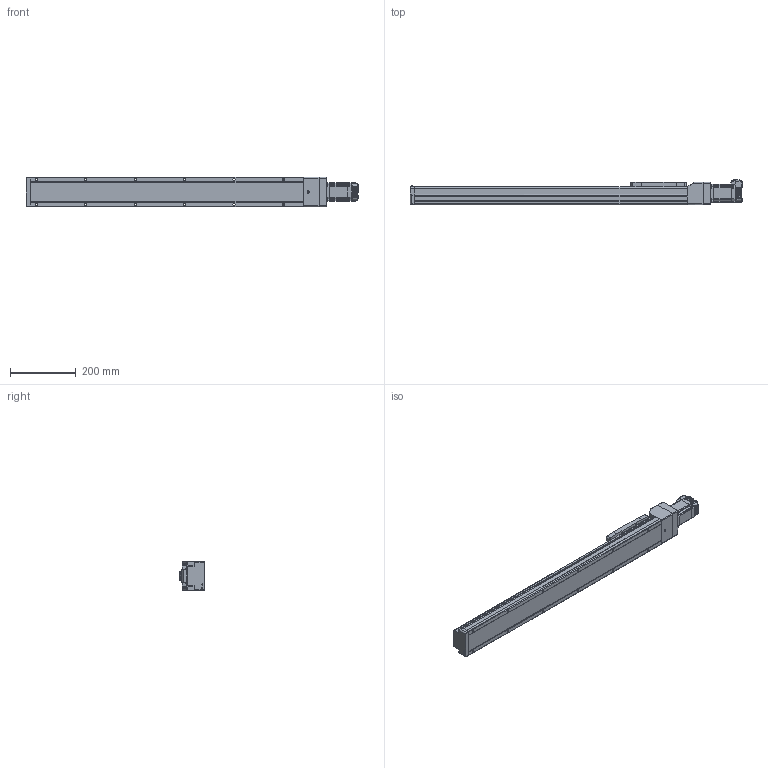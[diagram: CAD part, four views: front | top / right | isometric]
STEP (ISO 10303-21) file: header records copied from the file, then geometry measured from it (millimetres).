
FILE_DESCRIPTION (( 'STEP AP214' ), '1' );
FILE_NAME ('LEFS3(+)-40NM1仩-650-23L.STEP', '2023-06-02T05:15:41', ( '' ), ( '' ), 'SwSTEP 2.0', 'SolidWorks 2019', '' );
FILE_SCHEMA (( 'AUTOMOTIVE_DESIGN' ));
Length unit declared in the file: millimetre
Products named in the file (5): LEFS3(+)-40NM1仩-650-23L; CM3(+)-23L50A_4-M4; LEFS3(+)-40NM1?_BODY_650; LEFS3(+)-40NM1_Motor Flange; LEFS3(+)-40NM1_TABLE
Assembly tree (4 placements, depth 2):
  LEFS3(+)-40NM1仩-650-23L
    LEFS3(+)-40NM1?_BODY_650
    LEFS3(+)-40NM1_TABLE
    LEFS3(+)-40NM1_Motor Flange
    CM3(+)-23L50A_4-M4
Bounding box: 1007.6 x 76.75 x 90 mm (x, y, z)
Volume: 4241534.2 mm3; surface area: 379667.5 mm2
Topology: 5 solids, 14 shells, 1658 faces, 4305 edges, 2664 vertices
Faces by surface type: plane 764, cylinder 523, bspline 133, cone 117, torus 74, sphere 47
Entity records: 56221 total; most frequent: CARTESIAN_POINT 14033, ORIENTED_EDGE 8460, DIRECTION 7894, EDGE_CURVE 4230, AXIS2_PLACEMENT_3D 2688, VERTEX_POINT 2664, LINE 2518, VECTOR 2518
